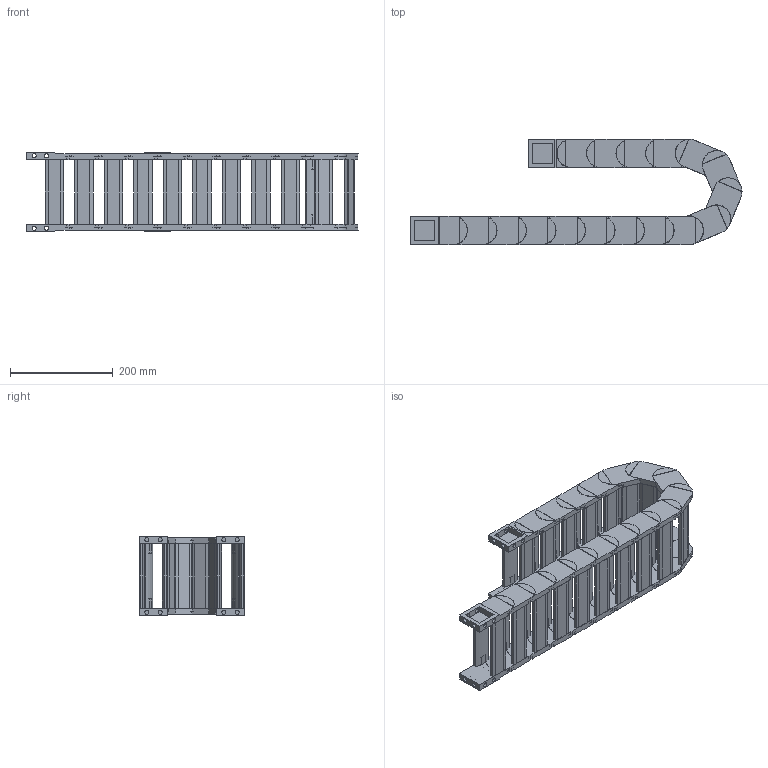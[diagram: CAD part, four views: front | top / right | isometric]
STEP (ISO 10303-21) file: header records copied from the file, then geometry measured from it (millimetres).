
FILE_DESCRIPTION((''),'2;1');
FILE_NAME('HD35-R75-ZPT_ASM','2022-06-17T11:53:40',('admin'),(''),'CREO PARAMETRIC BY PTC INC, 2021164','CREO PARAMETRIC BY PTC INC, 2021164','');
FILE_SCHEMA(('CONFIG_CONTROL_DESIGN','GEOMETRIC_VALIDATION_PROPERTIES_MIM'));
Length unit declared in the file: millimetre
Products named in the file (6): HD35; 35-600001; HD35_ASM; 35-TL_11; 35-WL; HD35-R75-ZPT_ASM
Assembly tree (22 placements, depth 3):
  HD35-R75-ZPT_ASM
    HD35_ASM  x16
      HD35
      35-600001
    35-TL_11
    35-WL
    35-600001  x2
Bounding box: 646.69 x 205 x 153.4 mm (x, y, z)
Volume: 2771175.3 mm3; surface area: 974487.6 mm2
Topology: 72 solids, 72 shells, 1354 faces, 3602 edges, 2468 vertices
Faces by surface type: plane 918, cylinder 436
Entity records: 9383 total; most frequent: DIRECTION 1418, CARTESIAN_POINT 1408, ORIENTED_EDGE 1300, EDGE_CURVE 650, AXIS2_PLACEMENT_3D 504, VERTEX_POINT 440, VECTOR 410, LINE 410
